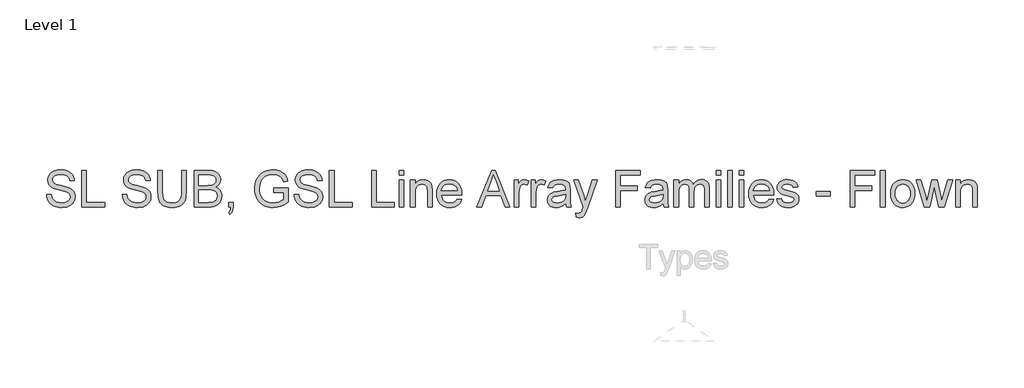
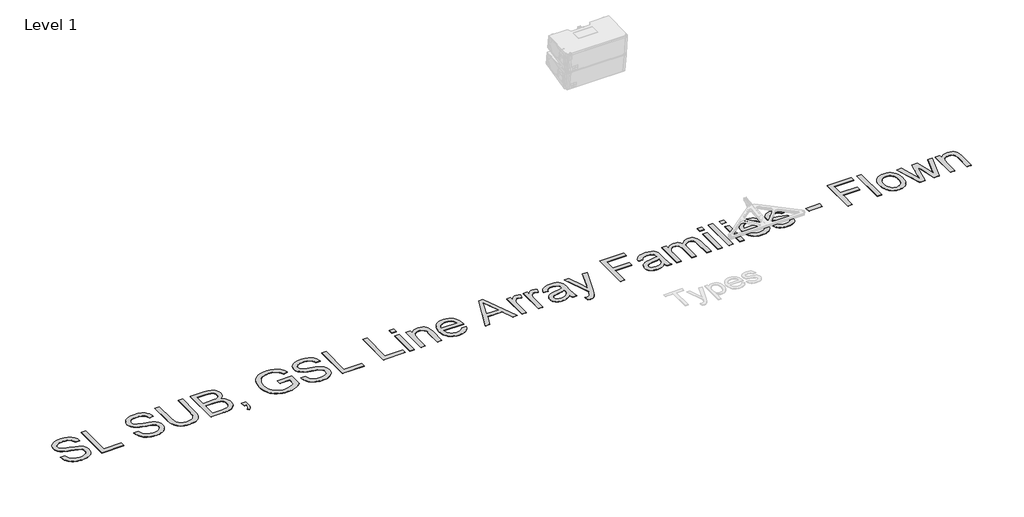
# One storey, part 25 of 52: 1 proxy.
"""IFC4 building model written with IfcOpenShell, lengths in millimetres."""

from ifc_helpers import new_model, si_unit, origin, origin_with_axes, place, context, project, spatial, polyline, outline, extrude, element, save

model = new_model("IFC4")

# Units and contexts
model_context = context("Model", 3, world=origin())
ifc_project = project(units=[si_unit("LENGTHUNIT", "METRE", prefix="MILLI")], contexts=[model_context])

# Site, building, storey
site = spatial("IfcSite", under=ifc_project)
building = spatial("IfcBuilding", under=site)
storey = spatial("IfcBuildingStorey", under=building, Name="Level 1", Elevation=0.0)

# Proxy
placement = place(None, origin())
element("IfcBuildingElementProxy", 1, Name="600mm Arial", ObjectType="600mm Arial", at=placement, inside=storey, context=model_context, shape_type="SweptSolid", body=[
    extrude(outline(polyline([(-21062.646299, -12364.4925934), (-20988.8001451, -12364.4925934), (-20980.3265874, -12405.4721607), (-20965.0020682, -12438.4108626), (-20941.0958182, -12464.5526895), (-20906.8770682, -12485.1416318), (-20865.0501451, -12498.5010068), (-20818.3193759, -12502.9541318), (-20777.177549, -12499.5827376), (-20741.1559143, -12489.4685549), (-20711.9672124, -12473.4589395), (-20691.3241836, -12452.4012472), (-20679.0465393, -12428.2245645), (-20674.9539913, -12402.857978), (-20678.0188951, -12378.1404299), (-20687.2136067, -12356.7762472), (-20705.8914913, -12338.5490837), (-20737.4059143, -12323.2425934), (-20844.9299528, -12295.045478), (-20915.5128855, -12276.3856222), (-20960.6751451, -12258.6272087), (-20997.4359624, -12233.7834587), (-21023.4876451, -12203.6752857), (-21039.0104817, -12168.951728), (-21044.1847605, -12130.2618241), (-21042.5847004, -12108.271139), (-21037.7845201, -12087.0106222), (-21029.7842196, -12066.4802736), (-21018.583799, -12046.6800934), (-21004.30946, -12028.4168722), (-20987.0874047, -12012.497401), (-20966.9176331, -11998.9216799), (-20943.8001451, -11987.6897087), (-20891.8410105, -11972.5995645), (-20834.3289913, -11967.5695164), (-20772.021299, -11972.8339395), (-20717.5020682, -11988.6272087), (-20693.6499047, -12000.3910309), (-20672.7184143, -12014.6248049), (-20654.707597, -12031.3285309), (-20639.6174528, -12050.5022087), (-20627.5651692, -12071.5869443), (-20618.6679336, -12094.0238434), (-20612.9257461, -12117.8129059), (-20610.3386067, -12142.9541318), (-20684.1847605, -12142.9541318), (-20689.1246643, -12119.3904299), (-20697.7424528, -12098.8916318), (-20710.0381259, -12081.4577376), (-20726.0116836, -12067.0887472), (-20745.9606018, -12055.856776), (-20770.1823567, -12047.8339395), (-20798.676948, -12043.0202376), (-20831.4443759, -12041.4156703), (-20865.2574768, -12043.0022087), (-20894.1487028, -12047.7618241), (-20918.1180538, -12055.6945164), (-20937.1655297, -12066.8002857), (-20951.6787509, -12080.1506462), (-20962.0453374, -12094.8171126), (-20968.2652893, -12110.7996847), (-20970.3386067, -12128.0983626), (-20964.4612028, -12156.4757664), (-20946.8289913, -12179.3002857), (-20930.6390874, -12189.450526), (-20905.146299, -12199.7089395), (-20826.2520682, -12220.5502857), (-20744.833799, -12240.3459587), (-20695.5789913, -12257.6175934), (-20653.4816355, -12284.4084587), (-20637.2060946, -12300.1566559), (-20624.1126451, -12317.4733626), (-20614.0480417, -12336.2684347), (-20606.8590393, -12356.451728), (-20601.1078374, -12400.982978), (-20602.7619841, -12424.0824371), (-20607.724424, -12446.5058145), (-20615.9951571, -12468.2531102), (-20627.5741836, -12489.3243241), (-20642.2586788, -12508.903651), (-20659.8458182, -12526.1752857), (-20680.3356018, -12541.139228), (-20703.7280297, -12553.795478), (-20729.3425129, -12563.8600813), (-20756.4984624, -12571.0490837), (-20815.4347605, -12576.8002857), (-20853.2097004, -12575.2498049), (-20887.7845201, -12570.5983626), (-20919.1592196, -12562.8459587), (-20947.333799, -12551.9925934), (-20972.4795321, -12538.0202376), (-20994.7676932, -12520.9108626), (-21014.1982821, -12500.6644684), (-21030.771299, -12477.2810549), (-21044.1216595, -12451.5178337), (-21053.8842797, -12424.1320164), (-21060.0591595, -12395.123603), (-21062.646299, -12364.4925934)])), origin_with_axes(), (0.0, 0.0, 1.0), 5.0),
    extrude(outline(polyline([(-20490.3386067, -12567.5695164), (-20490.3386067, -11976.8002857), (-20416.4924528, -11976.8002857), (-20416.4924528, -12493.7233626), (-20121.1078374, -12493.7233626), (-20121.1078374, -12567.5695164), (-20490.3386067, -12567.5695164)])), origin_with_axes(), (0.0, 0.0, 1.0), 5.0),
    extrude(outline(polyline([(-19834.9539913, -12364.4925934), (-19761.1078374, -12364.4925934), (-19752.6342797, -12405.4721607), (-19737.3097605, -12438.4108626), (-19713.4035105, -12464.5526895), (-19679.1847605, -12485.1416318), (-19637.3578374, -12498.5010068), (-19590.6270682, -12502.9541318), (-19549.4852413, -12499.5827376), (-19513.4636067, -12489.4685549), (-19484.2749047, -12473.4589395), (-19463.6318759, -12452.4012472), (-19451.3542317, -12428.2245645), (-19447.2616836, -12402.857978), (-19450.3265874, -12378.1404299), (-19459.521299, -12356.7762472), (-19478.1991836, -12338.5490837), (-19509.7136067, -12323.2425934), (-19617.2376451, -12295.045478), (-19687.8205778, -12276.3856222), (-19732.9828374, -12258.6272087), (-19769.7436547, -12233.7834587), (-19795.7953374, -12203.6752857), (-19811.318174, -12168.951728), (-19816.4924528, -12130.2618241), (-19814.8923927, -12108.271139), (-19810.0922124, -12087.0106222), (-19802.0919119, -12066.4802736), (-19790.8914913, -12046.6800934), (-19776.6171523, -12028.4168722), (-19759.395097, -12012.497401), (-19739.2253254, -11998.9216799), (-19716.1078374, -11987.6897087), (-19664.1487028, -11972.5995645), (-19606.6366836, -11967.5695164), (-19544.3289913, -11972.8339395), (-19489.8097605, -11988.6272087), (-19465.957597, -12000.3910309), (-19445.0261067, -12014.6248049), (-19427.0152893, -12031.3285309), (-19411.9251451, -12050.5022087), (-19399.8728615, -12071.5869443), (-19390.9756259, -12094.0238434), (-19385.2334384, -12117.8129059), (-19382.646299, -12142.9541318), (-19456.4924528, -12142.9541318), (-19461.4323567, -12119.3904299), (-19470.0501451, -12098.8916318), (-19482.3458182, -12081.4577376), (-19498.3193759, -12067.0887472), (-19518.2682942, -12055.856776), (-19542.490049, -12047.8339395), (-19570.9846403, -12043.0202376), (-19603.7520682, -12041.4156703), (-19637.5651692, -12043.0022087), (-19666.4563951, -12047.7618241), (-19690.4257461, -12055.6945164), (-19709.473222, -12066.8002857), (-19723.9864432, -12080.1506462), (-19734.3530297, -12094.8171126), (-19740.5729817, -12110.7996847), (-19742.646299, -12128.0983626), (-19736.7688951, -12156.4757664), (-19719.1366836, -12179.3002857), (-19702.9467797, -12189.450526), (-19677.4539913, -12199.7089395), (-19598.5597605, -12220.5502857), (-19517.1414913, -12240.3459587), (-19467.8866836, -12257.6175934), (-19425.7893278, -12284.4084587), (-19409.5137869, -12300.1566559), (-19396.4203374, -12317.4733626), (-19386.3557341, -12336.2684347), (-19379.1667317, -12356.451728), (-19373.4155297, -12400.982978), (-19375.0696764, -12424.0824371), (-19380.0321163, -12446.5058145), (-19388.3028494, -12468.2531102), (-19399.8818759, -12489.3243241), (-19414.5663711, -12508.903651), (-19432.1535105, -12526.1752857), (-19452.6432942, -12541.139228), (-19476.035722, -12553.795478), (-19501.6502052, -12563.8600813), (-19528.8061547, -12571.0490837), (-19587.7424528, -12576.8002857), (-19625.5173927, -12575.2498049), (-19660.0922124, -12570.5983626), (-19691.4669119, -12562.8459587), (-19719.6414913, -12551.9925934), (-19744.7872244, -12538.0202376), (-19767.0753855, -12520.9108626), (-19786.5059744, -12500.6644684), (-19803.0789913, -12477.2810549), (-19816.4293518, -12451.5178337), (-19826.191972, -12424.1320164), (-19832.3668518, -12395.123603), (-19834.9539913, -12364.4925934)])), origin_with_axes(), (0.0, 0.0, 1.0), 5.0),
    extrude(outline(polyline([(-18874.9539913, -11976.8002857), (-18801.1078374, -11976.8002857), (-18801.1078374, -12317.6175934), (-18806.1198567, -12397.4312953), (-18812.3848807, -12430.4556342), (-18821.1559143, -12458.8916318), (-18833.1901692, -12483.8165116), (-18849.2448567, -12506.3074972), (-18869.3199768, -12526.3645885), (-18893.4155297, -12543.9877857), (-18921.5585586, -12558.3432544), (-18953.7761067, -12568.5971607), (-18990.068174, -12574.7495044), (-19030.4347605, -12576.8002857), (-19069.8052533, -12575.0154299), (-19105.4167317, -12569.6608626), (-19137.2691956, -12560.7365837), (-19165.3626451, -12548.2425934), (-19189.7015874, -12532.3636871), (-19210.2905297, -12513.2846607), (-19227.129472, -12491.005514), (-19240.2184143, -12465.5262472), (-19250.0306139, -12435.9724611), (-19257.0393278, -12401.4697568), (-19262.646299, -12317.6175934), (-19262.646299, -11976.8002857), (-19188.8001451, -11976.8002857), (-19188.8001451, -12315.0214395), (-19185.1583182, -12381.3856222), (-19174.2328374, -12427.5935549), (-19165.6420922, -12444.6263073), (-19154.4371643, -12459.5947568), (-19140.6180538, -12472.4989034), (-19124.1847605, -12483.3387472), (-19084.7376451, -12498.0502857), (-19037.3578374, -12502.9541318), (-18996.6577172, -12500.529252), (-18962.2496643, -12493.2546126), (-18934.1336788, -12481.1302135), (-18912.3097605, -12464.1560549), (-18895.9666115, -12440.2858626), (-18884.2929336, -12407.4733626), (-18877.2887268, -12365.7185549), (-18874.9539913, -12315.0214395), (-18874.9539913, -11976.8002857)])), origin_with_axes(), (0.0, 0.0, 1.0), 5.0),
    extrude(outline(polyline([(-18671.8770682, -12567.5695164), (-18671.8770682, -11976.8002857), (-18446.4443759, -11976.8002857), (-18384.443174, -11981.1452376), (-18336.035722, -11994.1800934), (-18298.9323567, -12016.2293722), (-18283.7610826, -12030.756115), (-18270.8434143, -12047.6175934), (-18253.1571163, -12084.5406703), (-18247.2616836, -12123.1945164), (-18252.2196163, -12158.7654299), (-18267.0934143, -12192.2089395), (-18291.9912509, -12221.4697568), (-18327.021299, -12244.4925934), (-18304.7331379, -12253.9937953), (-18285.176347, -12266.3435549), (-18268.3509264, -12281.5418722), (-18254.2568759, -12299.5887472), (-18243.1195562, -12319.9343001), (-18235.1643278, -12342.028651), (-18230.3911908, -12365.8718001), (-18228.8001451, -12391.4637472), (-18233.145097, -12432.6596607), (-18246.1799528, -12470.8627857), (-18265.6330778, -12503.3507664), (-18289.2328374, -12527.4012472), (-18318.1330778, -12544.8171126), (-18353.4876451, -12557.4012472), (-18396.4503855, -12565.0274491), (-18448.1751451, -12567.5695164), (-18671.8770682, -12567.5695164)]), holes=[polyline([(-18598.0309143, -12493.7233626), (-18446.5886067, -12493.7233626), (-18391.7809143, -12490.8387472), (-18366.3422124, -12484.4385068), (-18345.410722, -12474.7570164), (-18328.3914913, -12460.8928337), (-18314.6895682, -12441.9445164), (-18305.6571163, -12418.7594203), (-18302.646299, -12392.184901), (-18306.1799528, -12361.3195164), (-18316.7809143, -12334.7810549), (-18335.2965393, -12314.029853), (-18362.5741836, -12300.5262472), (-18401.2100009, -12293.1163914), (-18453.8001451, -12290.6464395), (-18598.0309143, -12290.6464395), (-18598.0309143, -12493.7233626)]), polyline([(-18598.0309143, -12216.8002857), (-18463.1751451, -12216.8002857), (-18416.0116836, -12215.2137472), (-18384.4251451, -12210.4541318), (-18356.8590393, -12199.5106222), (-18337.0453374, -12183.122401), (-18325.0922124, -12161.5418722), (-18321.1078374, -12135.0214395), (-18324.8217797, -12109.2762472), (-18335.9636067, -12086.8483626), (-18354.0285105, -12069.342353), (-18378.5116836, -12058.3627857), (-18416.083799, -12052.575526), (-18473.4155297, -12050.6464395), (-18598.0309143, -12050.6464395), (-18598.0309143, -12216.8002857)])]), origin_with_axes(), (0.0, 0.0, 1.0), 5.0),
    extrude(outline(polyline([(-18118.0309143, -12567.5695164), (-18118.0309143, -12493.7233626), (-18044.1847605, -12493.7233626), (-18044.1847605, -12567.5695164), (-18047.5020682, -12609.811103), (-18057.4539913, -12643.0743241), (-18074.6174528, -12668.5851414), (-18099.5693759, -12687.5695164), (-18118.0309143, -12659.8772087), (-18102.021299, -12646.4998049), (-18090.9155297, -12628.0022087), (-18084.1727413, -12602.3651895), (-18081.2520682, -12567.5695164), (-18118.0309143, -12567.5695164)])), origin_with_axes(), (0.0, 0.0, 1.0), 5.0),
    extrude(outline(polyline([(-17388.8001451, -12336.8002857), (-17388.8001451, -12262.9541318), (-17148.8001451, -12262.9541318), (-17148.8001451, -12483.7714395), (-17207.1234624, -12524.3363434), (-17267.285722, -12553.434901), (-17329.1426932, -12570.9589395), (-17392.5501451, -12576.8002857), (-17434.9675129, -12574.4790717), (-17475.3926932, -12567.5154299), (-17513.825686, -12555.9093602), (-17550.2664913, -12539.6608626), (-17583.5387268, -12519.0133265), (-17612.4660105, -12494.2101414), (-17637.0483422, -12465.2513073), (-17657.285722, -12432.1368241), (-17673.0925129, -12395.9258866), (-17684.3830778, -12357.6776895), (-17691.1574167, -12317.3922328), (-17693.4155297, -12275.0695164), (-17691.1664312, -12232.7422929), (-17684.4191355, -12191.8663914), (-17673.1736427, -12152.4418121), (-17657.4299528, -12114.4685549), (-17637.4675129, -12079.6142881), (-17613.5657701, -12049.5466799), (-17585.7247244, -12024.2657304), (-17553.9443759, -12003.7714395), (-17518.9143278, -11987.9330982), (-17481.3241836, -11976.6199972), (-17441.1739432, -11969.8321366), (-17398.4636067, -11967.5695164), (-17337.6342797, -11972.8159107), (-17282.9347605, -11988.5550934), (-17236.8710586, -12013.6512472), (-17218.0173927, -12029.2822568), (-17201.9491836, -12046.9685549), (-17176.113847, -12090.1115837), (-17157.3097605, -12144.684901), (-17225.3866836, -12163.8675934), (-17240.5850009, -12124.9433145), (-17259.0645682, -12095.5743241), (-17283.5116836, -12073.434901), (-17316.6126451, -12056.1993241), (-17356.0777893, -12045.1115837), (-17399.6174528, -12041.4156703), (-17450.5850009, -12045.4000453), (-17494.160722, -12057.3531703), (-17530.1823567, -12075.778651), (-17558.4876451, -12099.1800934), (-17580.2124047, -12126.3495645), (-17596.4924528, -12156.0791318), (-17613.8001451, -12211.8243241), (-17619.5693759, -12272.0406703), (-17617.8340994, -12308.9141679), (-17612.6282701, -12342.6596607), (-17603.9518879, -12373.2771486), (-17591.8049528, -12400.7666318), (-17576.3452172, -12425.0244443), (-17557.7304336, -12445.9469203), (-17535.9606018, -12463.5340597), (-17511.035722, -12477.7858626), (-17484.1231619, -12488.7969804), (-17456.3902893, -12496.6620645), (-17427.8371042, -12501.381115), (-17398.4636067, -12502.9541318), (-17347.3157701, -12498.2125453), (-17297.4299528, -12483.9877857), (-17254.1066355, -12464.3904299), (-17222.646299, -12443.5310549), (-17222.646299, -12336.8002857), (-17388.8001451, -12336.8002857)])), origin_with_axes(), (0.0, 0.0, 1.0), 5.0),
    extrude(outline(polyline([(-17056.4924528, -12364.4925934), (-16982.646299, -12364.4925934), (-16974.1727413, -12405.4721607), (-16958.848222, -12438.4108626), (-16934.941972, -12464.5526895), (-16900.723222, -12485.1416318), (-16858.896299, -12498.5010068), (-16812.1655297, -12502.9541318), (-16771.0237028, -12499.5827376), (-16735.0020682, -12489.4685549), (-16705.8133663, -12473.4589395), (-16685.1703374, -12452.4012472), (-16672.8926932, -12428.2245645), (-16668.8001451, -12402.857978), (-16671.865049, -12378.1404299), (-16681.0597605, -12356.7762472), (-16699.7376451, -12338.5490837), (-16731.2520682, -12323.2425934), (-16838.7761067, -12295.045478), (-16909.3590393, -12276.3856222), (-16954.521299, -12258.6272087), (-16991.2821163, -12233.7834587), (-17017.333799, -12203.6752857), (-17032.8566355, -12168.951728), (-17038.0309143, -12130.2618241), (-17036.4308542, -12108.271139), (-17031.630674, -12087.0106222), (-17023.6303735, -12066.4802736), (-17012.4299528, -12046.6800934), (-16998.1556139, -12028.4168722), (-16980.9335586, -12012.497401), (-16960.7637869, -11998.9216799), (-16937.646299, -11987.6897087), (-16885.6871643, -11972.5995645), (-16828.1751451, -11967.5695164), (-16765.8674528, -11972.8339395), (-16711.348222, -11988.6272087), (-16687.4960586, -12000.3910309), (-16666.5645682, -12014.6248049), (-16648.5537509, -12031.3285309), (-16633.4636067, -12050.5022087), (-16621.411323, -12071.5869443), (-16612.5140874, -12094.0238434), (-16606.7718999, -12117.8129059), (-16604.1847605, -12142.9541318), (-16678.0309143, -12142.9541318), (-16682.9708182, -12119.3904299), (-16691.5886067, -12098.8916318), (-16703.8842797, -12081.4577376), (-16719.8578374, -12067.0887472), (-16739.8067557, -12055.856776), (-16764.0285105, -12047.8339395), (-16792.5231018, -12043.0202376), (-16825.2905297, -12041.4156703), (-16859.1036307, -12043.0022087), (-16887.9948567, -12047.7618241), (-16911.9642076, -12055.6945164), (-16931.0116836, -12066.8002857), (-16945.5249047, -12080.1506462), (-16955.8914913, -12094.8171126), (-16962.1114432, -12110.7996847), (-16964.1847605, -12128.0983626), (-16958.3073567, -12156.4757664), (-16940.6751451, -12179.3002857), (-16924.4852413, -12189.450526), (-16898.9924528, -12199.7089395), (-16820.098222, -12220.5502857), (-16738.6799528, -12240.3459587), (-16689.4251451, -12257.6175934), (-16647.3277893, -12284.4084587), (-16631.0522485, -12300.1566559), (-16617.958799, -12317.4733626), (-16607.8941956, -12336.2684347), (-16600.7051932, -12356.451728), (-16594.9539913, -12400.982978), (-16596.6081379, -12424.0824371), (-16601.5705778, -12446.5058145), (-16609.841311, -12468.2531102), (-16621.4203374, -12489.3243241), (-16636.1048326, -12508.903651), (-16653.691972, -12526.1752857), (-16674.1817557, -12541.139228), (-16697.5741836, -12553.795478), (-16723.1886667, -12563.8600813), (-16750.3446163, -12571.0490837), (-16809.2809143, -12576.8002857), (-16847.0558542, -12575.2498049), (-16881.630674, -12570.5983626), (-16913.0053735, -12562.8459587), (-16941.1799528, -12551.9925934), (-16966.325686, -12538.0202376), (-16988.613847, -12520.9108626), (-17008.044436, -12500.6644684), (-17024.6174528, -12477.2810549), (-17037.9678134, -12451.5178337), (-17047.7304336, -12424.1320164), (-17053.9053134, -12395.123603), (-17056.4924528, -12364.4925934)])), origin_with_axes(), (0.0, 0.0, 1.0), 5.0),
    extrude(outline(polyline([(-16484.1847605, -12567.5695164), (-16484.1847605, -11976.8002857), (-16410.3386067, -11976.8002857), (-16410.3386067, -12493.7233626), (-16114.9539913, -12493.7233626), (-16114.9539913, -12567.5695164), (-16484.1847605, -12567.5695164)])), origin_with_axes(), (0.0, 0.0, 1.0), 5.0),
    extrude(outline(polyline([(-15801.1078374, -12567.5695164), (-15801.1078374, -11976.8002857), (-15727.2616836, -11976.8002857), (-15727.2616836, -12493.7233626), (-15431.8770682, -12493.7233626), (-15431.8770682, -12567.5695164), (-15801.1078374, -12567.5695164)])), origin_with_axes(), (0.0, 0.0, 1.0), 5.0),
    extrude(outline(polyline([(-15358.0309143, -12567.5695164), (-15358.0309143, -12133.7233626), (-15284.1847605, -12133.7233626), (-15284.1847605, -12567.5695164), (-15358.0309143, -12567.5695164)])), origin_with_axes(), (0.0, 0.0, 1.0), 5.0),
    extrude(outline(polyline([(-15358.0309143, -12050.6464395), (-15358.0309143, -11976.8002857), (-15284.1847605, -11976.8002857), (-15284.1847605, -12050.6464395), (-15358.0309143, -12050.6464395)])), origin_with_axes(), (0.0, 0.0, 1.0), 5.0),
    extrude(outline(polyline([(-15173.4155297, -12567.5695164), (-15173.4155297, -12133.7233626), (-15099.5693759, -12133.7233626), (-15099.5693759, -12194.3002857), (-15073.9143278, -12163.7594203), (-15043.1030297, -12141.9445164), (-15007.1354817, -12128.8555741), (-14966.0116836, -12124.4925934), (-14929.6114432, -12128.0082184), (-14896.2761067, -12138.5550934), (-14868.4756259, -12154.8171126), (-14848.6799528, -12175.4781703), (-14835.2484624, -12200.4841799), (-14826.5405297, -12229.7810549), (-14822.646299, -12301.1752857), (-14822.646299, -12567.5695164), (-14896.4924528, -12567.5695164), (-14896.4924528, -12311.1272087), (-14898.6198567, -12272.9421126), (-14905.0020682, -12245.7906703), (-14916.7749047, -12226.3375453), (-14935.0741836, -12211.247401), (-14958.5297124, -12201.5659107), (-14985.771299, -12198.3387472), (-15008.1946764, -12200.1506462), (-15029.0225009, -12205.5863434), (-15048.2547725, -12214.6458385), (-15065.8914913, -12227.3291318), (-15080.6255658, -12245.0785309), (-15091.1499047, -12269.3363434), (-15097.4645081, -12300.1025693), (-15099.5693759, -12337.3772087), (-15099.5693759, -12567.5695164), (-15173.4155297, -12567.5695164)])), origin_with_axes(), (0.0, 0.0, 1.0), 5.0),
    extrude(outline(polyline([(-14417.3578374, -12438.3387472), (-14344.9539913, -12447.5695164), (-14356.0552533, -12476.5689155), (-14371.0417317, -12502.1248049), (-14389.9134264, -12524.2371847), (-14412.6703374, -12542.9060549), (-14439.0780898, -12557.7347809), (-14468.9023086, -12568.326728), (-14502.1429937, -12574.6818962), (-14538.8001451, -12576.8002857), (-14584.6204576, -12573.1449371), (-14625.4467797, -12562.1788914), (-14661.2791115, -12543.9021486), (-14692.1174528, -12518.3147087), (-14716.9161307, -12486.1287111), (-14734.629472, -12448.0562953), (-14745.2574768, -12404.0974611), (-14748.8001451, -12354.2522087), (-14745.2214192, -12302.716752), (-14734.4852413, -12257.2930741), (-14716.5916115, -12217.9811751), (-14691.5405297, -12184.7810549), (-14660.7833182, -12158.404853), (-14625.771299, -12139.5647087), (-14586.504472, -12128.2606222), (-14542.9828374, -12124.4925934), (-14500.8629456, -12128.2516078), (-14462.7725009, -12139.528651), (-14428.7115033, -12158.3237232), (-14398.6799528, -12184.6368241), (-14374.1652292, -12217.7648289), (-14356.6547124, -12257.0046126), (-14346.1484023, -12302.3561751), (-14342.646299, -12353.8195164), (-14343.0789913, -12373.7233626), (-14674.9539913, -12373.7233626), (-14670.6766475, -12403.1915116), (-14662.1715393, -12428.9998049), (-14649.4386667, -12451.1482424), (-14632.4780297, -12469.6368241), (-14612.2271283, -12484.2131462), (-14589.6234624, -12494.6248049), (-14564.6670321, -12500.8718001), (-14537.3578374, -12502.9541318), (-14498.0549528, -12499.0959587), (-14464.9539913, -12487.5214395), (-14438.0549528, -12467.5094203), (-14417.3578374, -12438.3387472)]), holes=[polyline([(-14674.9539913, -12299.8772087), (-14416.4924528, -12299.8772087), (-14426.4804336, -12260.8627857), (-14435.0711788, -12245.5202376), (-14446.0597605, -12232.9541318), (-14466.1979817, -12217.809901), (-14489.1126451, -12206.9925934), (-14514.8037509, -12200.5022087), (-14543.271299, -12198.3387472), (-14569.2373446, -12200.0650092), (-14593.0489432, -12205.2437953), (-14614.7060946, -12213.8751054), (-14634.208799, -12225.9589395), (-14650.5744841, -12240.9364034), (-14662.8205778, -12258.248603), (-14670.9470802, -12277.8955381), (-14674.9539913, -12299.8772087)])]), origin_with_axes(), (0.0, 0.0, 1.0), 5.0),
    extrude(outline(polyline([(-14097.598222, -12567.5695164), (-13861.7809143, -11976.8002857), (-13798.896299, -11976.8002857), (-13563.0789913, -12567.5695164), (-13641.1078374, -12567.5695164), (-13708.7520682, -12382.9541318), (-13952.0693759, -12382.9541318), (-14019.5693759, -12567.5695164), (-14097.598222, -12567.5695164)]), holes=[polyline([(-13924.9539913, -12309.107978), (-13735.723222, -12309.107978), (-13788.9443759, -12163.8675934), (-13830.3386067, -12050.6464395), (-13867.1174528, -12151.1752857), (-13924.9539913, -12309.107978)])]), origin_with_axes(), (0.0, 0.0, 1.0), 5.0),
    extrude(outline(polyline([(-13493.4155297, -12567.5695164), (-13493.4155297, -12133.7233626), (-13428.8001451, -12133.7233626), (-13428.8001451, -12197.9060549), (-13404.9299528, -12160.6945164), (-13382.9347605, -12138.7714395), (-13360.8674528, -12128.0623049), (-13336.7809143, -12124.4925934), (-13300.0020682, -12130.1897087), (-13262.646299, -12147.2810549), (-13287.3097605, -12213.482978), (-13313.271299, -12202.1248049), (-13339.2328374, -12198.3387472), (-13361.2821163, -12201.9805741), (-13380.9876451, -12212.9060549), (-13396.9071163, -12230.2858626), (-13407.598222, -12253.2906703), (-13416.5765874, -12294.5406703), (-13419.5693759, -12339.5406703), (-13419.5693759, -12567.5695164), (-13493.4155297, -12567.5695164)])), origin_with_axes(), (0.0, 0.0, 1.0), 5.0),
    extrude(outline(polyline([(-13216.4924528, -12567.5695164), (-13216.4924528, -12133.7233626), (-13151.8770682, -12133.7233626), (-13151.8770682, -12197.9060549), (-13128.0068759, -12160.6945164), (-13106.0116836, -12138.7714395), (-13083.9443759, -12128.0623049), (-13059.8578374, -12124.4925934), (-13023.0789913, -12130.1897087), (-12985.723222, -12147.2810549), (-13010.3866836, -12213.482978), (-13036.348222, -12202.1248049), (-13062.3097605, -12198.3387472), (-13084.3590393, -12201.9805741), (-13104.0645682, -12212.9060549), (-13119.9840393, -12230.2858626), (-13130.6751451, -12253.2906703), (-13139.6535105, -12294.5406703), (-13142.646299, -12339.5406703), (-13142.646299, -12567.5695164), (-13216.4924528, -12567.5695164)])), origin_with_axes(), (0.0, 0.0, 1.0), 5.0),
    extrude(outline(polyline([(-12662.646299, -12512.184901), (-12697.9287509, -12542.4373049), (-12734.2568759, -12562.232978), (-12772.4600009, -12573.1584587), (-12813.3674528, -12576.8002857), (-12846.247561, -12574.6097809), (-12875.0801932, -12568.0382664), (-12899.8653494, -12557.0857424), (-12920.6030297, -12541.7522087), (-12936.9777292, -12523.0112232), (-12948.6739432, -12501.8363434), (-12955.6916716, -12478.2275693), (-12958.0309143, -12452.184901), (-12954.4972605, -12421.5719203), (-12943.896299, -12393.7714395), (-12927.5441355, -12369.9733626), (-12906.7568759, -12351.3675934), (-12882.3277893, -12337.3050934), (-12855.0501451, -12327.1368241), (-12791.1559143, -12316.0310549), (-12715.6511067, -12304.3483626), (-12663.0789913, -12290.6464395), (-12662.646299, -12274.2041318), (-12667.7304336, -12241.247401), (-12674.0856018, -12229.0418722), (-12682.9828374, -12219.684901), (-12698.3614432, -12210.3459587), (-12717.0934143, -12203.6752857), (-12764.6174528, -12198.3387472), (-12808.6078374, -12201.8904299), (-12839.3289913, -12212.545478), (-12860.2785105, -12232.2510068), (-12874.9539913, -12262.9541318), (-12948.8001451, -12253.7233626), (-12935.9816355, -12213.3387472), (-12916.8530297, -12181.607978), (-12889.629472, -12157.341151), (-12852.5261067, -12139.3483626), (-12807.1475009, -12128.2065357), (-12755.098222, -12124.4925934), (-12705.176347, -12127.7738434), (-12665.6030297, -12137.6175934), (-12635.7652893, -12152.419276), (-12615.0501451, -12170.5743241), (-12601.3121643, -12193.0202376), (-12592.4059143, -12220.6945164), (-12588.8001451, -12285.309901), (-12588.8001451, -12377.184901), (-12585.0501451, -12505.4781703), (-12579.4972605, -12537.1909107), (-12570.3386067, -12567.5695164), (-12644.1847605, -12567.5695164), (-12656.0116836, -12541.8964395), (-12662.646299, -12512.184901)]), holes=[polyline([(-12662.646299, -12364.4925934), (-12712.2616836, -12376.7882664), (-12781.7809143, -12387.1368241), (-12845.3145682, -12399.107978), (-12861.8470201, -12407.2930741), (-12874.0886067, -12418.5791318), (-12881.660722, -12432.1007664), (-12884.1847605, -12446.9925934), (-12878.6859624, -12468.951728), (-12862.1895682, -12486.9445164), (-12835.0561547, -12498.951728), (-12797.646299, -12502.9541318), (-12757.9828374, -12498.5370645), (-12722.9347605, -12485.2858626), (-12694.521299, -12465.7606222), (-12674.7616836, -12442.5214395), (-12665.9996643, -12418.5791318), (-12663.0789913, -12385.4060549), (-12662.646299, -12364.4925934)])]), origin_with_axes(), (0.0, 0.0, 1.0), 5.0),
    extrude(outline(polyline([(-12487.2616836, -12733.7233626), (-12496.4924528, -12662.6175934), (-12458.9924528, -12669.107978), (-12439.2688951, -12667.0707184), (-12423.9443759, -12660.9589395), (-12412.0092797, -12651.2053337), (-12402.4539913, -12638.2425934), (-12382.2616836, -12583.8675934), (-12376.4924528, -12565.982978), (-12533.4155297, -12133.7233626), (-12455.5309143, -12133.7233626), (-12372.3097605, -12374.5887472), (-12343.3193759, -12470.934901), (-12314.3289913, -12385.8387472), (-12228.8001451, -12133.7233626), (-12151.4924528, -12133.7233626), (-12302.5020682, -12577.9541318), (-12341.7328374, -12674.3002857), (-12361.816972, -12705.0574972), (-12384.5693759, -12726.3675934), (-12410.9996643, -12738.8074972), (-12442.1174528, -12742.9541318), (-12463.4996643, -12740.6464395), (-12487.2616836, -12733.7233626)])), origin_with_axes(), (0.0, 0.0, 1.0), 5.0),
    extrude(outline(polyline([(-11850.3386067, -12567.5695164), (-11850.3386067, -11976.8002857), (-11453.4155297, -11976.8002857), (-11453.4155297, -12050.6464395), (-11776.4924528, -12050.6464395), (-11776.4924528, -12226.0310549), (-11499.5693759, -12226.0310549), (-11499.5693759, -12299.8772087), (-11776.4924528, -12299.8772087), (-11776.4924528, -12567.5695164), (-11850.3386067, -12567.5695164)])), origin_with_axes(), (0.0, 0.0, 1.0), 5.0),
    extrude(outline(polyline([(-11084.1847605, -12512.184901), (-11119.4672124, -12542.4373049), (-11155.7953374, -12562.232978), (-11193.9984624, -12573.1584587), (-11234.9059143, -12576.8002857), (-11267.7860225, -12574.6097809), (-11296.6186547, -12568.0382664), (-11321.403811, -12557.0857424), (-11342.1414913, -12541.7522087), (-11358.5161908, -12523.0112232), (-11370.2124047, -12501.8363434), (-11377.2301331, -12478.2275693), (-11379.5693759, -12452.184901), (-11376.035722, -12421.5719203), (-11365.4347605, -12393.7714395), (-11349.082597, -12369.9733626), (-11328.2953374, -12351.3675934), (-11303.8662509, -12337.3050934), (-11276.5886067, -12327.1368241), (-11212.6943759, -12316.0310549), (-11137.1895682, -12304.3483626), (-11084.6174528, -12290.6464395), (-11084.1847605, -12274.2041318), (-11089.2688951, -12241.247401), (-11095.6240634, -12229.0418722), (-11104.521299, -12219.684901), (-11119.8999047, -12210.3459587), (-11138.6318759, -12203.6752857), (-11186.1559143, -12198.3387472), (-11230.146299, -12201.8904299), (-11260.8674528, -12212.545478), (-11281.816972, -12232.2510068), (-11296.4924528, -12262.9541318), (-11370.3386067, -12253.7233626), (-11357.520097, -12213.3387472), (-11338.3914913, -12181.607978), (-11311.1679336, -12157.341151), (-11274.0645682, -12139.3483626), (-11228.6859624, -12128.2065357), (-11176.6366836, -12124.4925934), (-11126.7148086, -12127.7738434), (-11087.1414913, -12137.6175934), (-11057.3037509, -12152.419276), (-11036.5886067, -12170.5743241), (-11022.8506259, -12193.0202376), (-11013.9443759, -12220.6945164), (-11010.3386067, -12285.309901), (-11010.3386067, -12377.184901), (-11006.5886067, -12505.4781703), (-11001.035722, -12537.1909107), (-10991.8770682, -12567.5695164), (-11065.723222, -12567.5695164), (-11077.5501451, -12541.8964395), (-11084.1847605, -12512.184901)]), holes=[polyline([(-11084.1847605, -12364.4925934), (-11133.8001451, -12376.7882664), (-11203.3193759, -12387.1368241), (-11266.8530297, -12399.107978), (-11283.3854817, -12407.2930741), (-11295.6270682, -12418.5791318), (-11303.1991836, -12432.1007664), (-11305.723222, -12446.9925934), (-11300.224424, -12468.951728), (-11283.7280297, -12486.9445164), (-11256.5946163, -12498.951728), (-11219.1847605, -12502.9541318), (-11179.521299, -12498.5370645), (-11144.473222, -12485.2858626), (-11116.0597605, -12465.7606222), (-11096.3001451, -12442.5214395), (-11087.5381259, -12418.5791318), (-11084.6174528, -12385.4060549), (-11084.1847605, -12364.4925934)])]), origin_with_axes(), (0.0, 0.0, 1.0), 5.0),
    extrude(outline(polyline([(-10908.8001451, -12567.5695164), (-10908.8001451, -12133.7233626), (-10834.9539913, -12133.7233626), (-10834.9539913, -12205.1175934), (-10812.7424528, -12172.3231222), (-10784.1847605, -12146.6320164), (-10750.254472, -12130.0274491), (-10711.9251451, -12124.4925934), (-10670.8554336, -12130.1356222), (-10653.3764672, -12137.1894083), (-10637.9347605, -12147.0647087), (-10613.3434143, -12174.1620645), (-10597.2616836, -12210.309901), (-10570.3446163, -12172.7648289), (-10539.6414913, -12145.9469203), (-10505.1523086, -12129.8561751), (-10466.8770682, -12124.4925934), (-10437.3142677, -12126.7236631), (-10411.3662509, -12133.4168722), (-10389.0330177, -12144.5722208), (-10370.3145682, -12160.1897087), (-10355.5173927, -12180.4496246), (-10344.9479817, -12205.5322568), (-10338.606335, -12235.4376054), (-10336.4924528, -12270.1656703), (-10336.4924528, -12567.5695164), (-10410.3386067, -12567.5695164), (-10410.3386067, -12301.8964395), (-10412.051347, -12265.0635068), (-10417.1895682, -12240.2377857), (-10426.816972, -12223.2365837), (-10441.9972605, -12209.8772087), (-10461.5225009, -12201.2233626), (-10484.1847605, -12198.3387472), (-10505.1117437, -12200.1867039), (-10524.1907701, -12205.7305741), (-10541.4218398, -12214.9703578), (-10556.8049528, -12227.9060549), (-10569.4566956, -12244.9162712), (-10578.4936547, -12266.3796126), (-10583.9158302, -12292.2960789), (-10585.723222, -12322.6656703), (-10585.723222, -12567.5695164), (-10659.5693759, -12567.5695164), (-10659.5693759, -12293.6752857), (-10663.8422124, -12251.920478), (-10676.660722, -12222.1368241), (-10686.5720802, -12211.7251655), (-10699.2148086, -12204.2882664), (-10714.5889071, -12199.826127), (-10732.6943759, -12198.3387472), (-10761.1438951, -12202.3050934), (-10787.3578374, -12214.2041318), (-10808.9924528, -12233.747401), (-10823.7039913, -12260.6464395), (-10832.1414913, -12297.966151), (-10834.9539913, -12348.7714395), (-10834.9539913, -12567.5695164), (-10908.8001451, -12567.5695164)])), origin_with_axes(), (0.0, 0.0, 1.0), 5.0),
    extrude(outline(polyline([(-10225.723222, -12567.5695164), (-10225.723222, -12133.7233626), (-10151.8770682, -12133.7233626), (-10151.8770682, -12567.5695164), (-10225.723222, -12567.5695164)])), origin_with_axes(), (0.0, 0.0, 1.0), 5.0),
    extrude(outline(polyline([(-10225.723222, -12050.6464395), (-10225.723222, -11976.8002857), (-10151.8770682, -11976.8002857), (-10151.8770682, -12050.6464395), (-10225.723222, -12050.6464395)])), origin_with_axes(), (0.0, 0.0, 1.0), 5.0),
    extrude(outline(polyline([(-10041.1078374, -12567.5695164), (-10041.1078374, -11976.8002857), (-9967.2616836, -11976.8002857), (-9967.2616836, -12567.5695164), (-10041.1078374, -12567.5695164)])), origin_with_axes(), (0.0, 0.0, 1.0), 5.0),
    extrude(outline(polyline([(-9856.4924528, -12050.6464395), (-9856.4924528, -11976.8002857), (-9782.646299, -11976.8002857), (-9782.646299, -12050.6464395), (-9856.4924528, -12050.6464395)])), origin_with_axes(), (0.0, 0.0, 1.0), 5.0),
    extrude(outline(polyline([(-9856.4924528, -12567.5695164), (-9856.4924528, -12133.7233626), (-9782.646299, -12133.7233626), (-9782.646299, -12567.5695164), (-9856.4924528, -12567.5695164)])), origin_with_axes(), (0.0, 0.0, 1.0), 5.0),
    extrude(outline(polyline([(-9368.1270682, -12438.3387472), (-9295.723222, -12447.5695164), (-9306.8244841, -12476.5689155), (-9321.8109624, -12502.1248049), (-9340.6826571, -12524.2371847), (-9363.4395682, -12542.9060549), (-9389.8473206, -12557.7347809), (-9419.6715393, -12568.326728), (-9452.9122244, -12574.6818962), (-9489.5693759, -12576.8002857), (-9535.3896884, -12573.1449371), (-9576.2160105, -12562.1788914), (-9612.0483422, -12543.9021486), (-9642.8866836, -12518.3147087), (-9667.6853615, -12486.1287111), (-9685.3987028, -12448.0562953), (-9696.0267076, -12404.0974611), (-9699.5693759, -12354.2522087), (-9695.9906499, -12302.716752), (-9685.254472, -12257.2930741), (-9667.3608422, -12217.9811751), (-9642.3097605, -12184.7810549), (-9611.552549, -12158.404853), (-9576.5405297, -12139.5647087), (-9537.2737028, -12128.2606222), (-9493.7520682, -12124.4925934), (-9451.6321764, -12128.2516078), (-9413.5417317, -12139.528651), (-9379.4807341, -12158.3237232), (-9349.4491836, -12184.6368241), (-9324.93446, -12217.7648289), (-9307.4239432, -12257.0046126), (-9296.9176331, -12302.3561751), (-9293.4155297, -12353.8195164), (-9293.848222, -12373.7233626), (-9625.723222, -12373.7233626), (-9621.4458783, -12403.1915116), (-9612.9407701, -12428.9998049), (-9600.2078975, -12451.1482424), (-9583.2472605, -12469.6368241), (-9562.9963591, -12484.2131462), (-9540.3926932, -12494.6248049), (-9515.4362629, -12500.8718001), (-9488.1270682, -12502.9541318), (-9448.8241836, -12499.0959587), (-9415.723222, -12487.5214395), (-9388.8241836, -12467.5094203), (-9368.1270682, -12438.3387472)]), holes=[polyline([(-9625.723222, -12299.8772087), (-9367.2616836, -12299.8772087), (-9377.2496643, -12260.8627857), (-9385.8404095, -12245.5202376), (-9396.8289913, -12232.9541318), (-9416.9672124, -12217.809901), (-9439.8818759, -12206.9925934), (-9465.5729817, -12200.5022087), (-9494.0405297, -12198.3387472), (-9520.0065754, -12200.0650092), (-9543.818174, -12205.2437953), (-9565.4753254, -12213.8751054), (-9584.9780297, -12225.9589395), (-9601.3437148, -12240.9364034), (-9613.5898086, -12258.248603), (-9621.716311, -12277.8955381), (-9625.723222, -12299.8772087)])]), origin_with_axes(), (0.0, 0.0, 1.0), 5.0),
    extrude(outline(polyline([(-9247.2616836, -12438.3387472), (-9173.4155297, -12429.107978), (-9168.9533903, -12445.9469203), (-9161.7688951, -12460.6945164), (-9151.8620442, -12473.3507664), (-9139.2328374, -12483.9156703), (-9123.8452172, -12492.2449972), (-9105.6631259, -12498.1945164), (-9060.9155297, -12502.9541318), (-9016.708799, -12498.591151), (-8999.5273086, -12493.1374251), (-8985.6270682, -12485.5022087), (-8967.2376451, -12466.5358626), (-8961.1078374, -12444.5406703), (-8962.6493038, -12434.5707184), (-8967.2737028, -12425.7185549), (-8985.771299, -12411.3675934), (-9013.427549, -12401.9925934), (-9061.7809143, -12390.309901), (-9129.1727413, -12370.8207184), (-9172.9828374, -12354.1800934), (-9201.1258663, -12336.0250453), (-9221.5164913, -12311.9925934), (-9233.9023086, -12283.6151895), (-9238.0309143, -12252.4252857), (-9234.7136067, -12223.8135068), (-9224.7616836, -12197.4012472), (-9209.0765874, -12174.2341799), (-9188.5597605, -12155.357978), (-9168.1691355, -12143.4769684), (-9141.6126451, -12133.5070164), (-9110.9095201, -12126.7461991), (-9078.0789913, -12124.4925934), (-9030.0140874, -12128.1163914), (-8988.223222, -12138.9877857), (-8954.6174528, -12156.0430741), (-8931.1078374, -12178.2185549), (-8915.5309143, -12207.154853), (-8905.723222, -12244.4925934), (-8979.5693759, -12253.7233626), (-8988.8902893, -12230.4841799), (-9007.333799, -12212.9781703), (-9035.0801932, -12201.998603), (-9072.3097605, -12198.3387472), (-9114.7136067, -12201.8363434), (-9142.9828374, -12212.3291318), (-9158.8842797, -12227.4733626), (-9164.1847605, -12244.9252857), (-9161.9852413, -12256.2834587), (-9155.3866836, -12266.4156703), (-9144.1006259, -12275.466151), (-9127.8386067, -12282.7137472), (-9064.2328374, -12298.434901), (-8955.8434143, -12333.1945164), (-8927.2136067, -12349.8171126), (-8905.5068759, -12372.5695164), (-8891.8229817, -12401.5238434), (-8887.2616836, -12436.7522087), (-8892.6162509, -12473.170478), (-8908.6799528, -12507.4252857), (-8934.8398086, -12536.8303337), (-8970.4828374, -12558.6993241), (-9013.535722, -12572.2750453), (-9061.9251451, -12576.8002857), (-9101.6697365, -12574.6187953), (-9136.3842797, -12568.0743241), (-9166.0687749, -12557.1668722), (-9190.723222, -12541.8964395), (-9210.8614432, -12522.3351414), (-9226.9972605, -12498.5550934), (-9239.130674, -12470.5562953), (-9247.2616836, -12438.3387472)])), origin_with_axes(), (0.0, 0.0, 1.0), 5.0),
    extrude(outline(polyline([(-8610.3386067, -12392.184901), (-8610.3386067, -12318.3387472), (-8379.5693759, -12318.3387472), (-8379.5693759, -12392.184901), (-8610.3386067, -12392.184901)])), origin_with_axes(), (0.0, 0.0, 1.0), 5.0),
    extrude(outline(polyline([(-8056.4924528, -12567.5695164), (-8056.4924528, -11976.8002857), (-7659.5693759, -11976.8002857), (-7659.5693759, -12050.6464395), (-7982.646299, -12050.6464395), (-7982.646299, -12226.0310549), (-7705.723222, -12226.0310549), (-7705.723222, -12299.8772087), (-7982.646299, -12299.8772087), (-7982.646299, -12567.5695164), (-8056.4924528, -12567.5695164)])), origin_with_axes(), (0.0, 0.0, 1.0), 5.0),
    extrude(outline(polyline([(-7567.2616836, -12567.5695164), (-7567.2616836, -11976.8002857), (-7493.4155297, -11976.8002857), (-7493.4155297, -12567.5695164), (-7567.2616836, -12567.5695164)])), origin_with_axes(), (0.0, 0.0, 1.0), 5.0),
    extrude(outline(polyline([(-7401.1078374, -12350.6464395), (-7397.114448, -12294.4595405), (-7385.1342797, -12246.0430741), (-7365.1673326, -12205.3970405), (-7337.2136067, -12172.5214395), (-7309.0705778, -12151.5088193), (-7278.0068759, -12136.4998049), (-7244.0225009, -12127.4943962), (-7207.1174528, -12124.4925934), (-7166.3767677, -12128.1479419), (-7129.5393278, -12139.1139876), (-7096.6051331, -12157.3907304), (-7067.5741836, -12182.9781703), (-7043.8797725, -12215.0109227), (-7026.9551932, -12252.623603), (-7016.8004456, -12295.8162111), (-7013.4155297, -12344.5887472), (-7014.911924, -12384.1169924), (-7019.4011067, -12419.1921126), (-7026.8830778, -12449.8141078), (-7037.3578374, -12475.982978), (-7050.6946764, -12498.5866438), (-7066.7628855, -12518.513026), (-7085.5624648, -12535.7621246), (-7107.0934143, -12550.3339395), (-7130.5173927, -12561.9129659), (-7154.9960586, -12570.1836991), (-7180.5294119, -12575.146139), (-7207.1174528, -12576.8002857), (-7248.4530898, -12573.1584587), (-7285.6330778, -12562.232978), (-7318.6574167, -12544.0238434), (-7347.5261067, -12518.5310549), (-7370.9681139, -12486.1873049), (-7387.7124047, -12447.4252857), (-7397.7589792, -12402.2449972), (-7401.1078374, -12350.6464395)]), holes=[polyline([(-7327.2616836, -12350.5022087), (-7325.1252653, -12386.3210188), (-7318.7160105, -12417.3351414), (-7308.0339192, -12443.5445765), (-7293.0789913, -12464.9493241), (-7274.8878855, -12481.5764275), (-7254.4972605, -12493.4529299), (-7231.9071163, -12500.5788313), (-7207.1174528, -12502.9541318), (-7182.4539913, -12500.5653097), (-7159.9539913, -12493.3988434), (-7139.6174528, -12481.4547328), (-7121.4443759, -12464.732978), (-7106.489448, -12443.1163914), (-7095.8073567, -12416.4877857), (-7089.3981018, -12384.8471607), (-7087.2616836, -12348.1945164), (-7089.4116235, -12313.5115236), (-7095.8614432, -12283.3086991), (-7106.6111427, -12257.5860429), (-7121.660722, -12236.3435549), (-7139.9014071, -12219.7164515), (-7160.224424, -12207.8399491), (-7182.6297725, -12200.7140477), (-7207.1174528, -12198.3387472), (-7231.9071163, -12200.7050333), (-7254.4972605, -12207.8038914), (-7274.8878855, -12219.6353217), (-7293.0789913, -12236.1993241), (-7308.0339192, -12257.5409708), (-7318.7160105, -12283.7053337), (-7325.1252653, -12314.6924131), (-7327.2616836, -12350.5022087)])]), origin_with_axes(), (0.0, 0.0, 1.0), 5.0),
    extrude(outline(polyline([(-6858.3674528, -12567.5695164), (-6990.3386067, -12133.7233626), (-6913.6078374, -12133.7233626), (-6838.7520682, -12386.8483626), (-6816.396299, -12477.2810549), (-6798.0789913, -12390.1656703), (-6738.5116836, -12133.7233626), (-6650.5309143, -12133.7233626), (-6591.2520682, -12389.4445164), (-6574.9539913, -12468.3387472), (-6551.5886067, -12385.1175934), (-6476.5886067, -12133.7233626), (-6399.5693759, -12133.7233626), (-6532.5501451, -12567.5695164), (-6621.8289913, -12567.5695164), (-6678.5116836, -12313.1464395), (-6694.9539913, -12233.8195164), (-6768.0789913, -12567.5695164), (-6858.3674528, -12567.5695164)])), origin_with_axes(), (0.0, 0.0, 1.0), 5.0),
    extrude(outline(polyline([(-6348.8001451, -12567.5695164), (-6348.8001451, -12133.7233626), (-6274.9539913, -12133.7233626), (-6274.9539913, -12194.3002857), (-6249.2989432, -12163.7594203), (-6218.4876451, -12141.9445164), (-6182.520097, -12128.8555741), (-6141.396299, -12124.4925934), (-6104.9960586, -12128.0082184), (-6071.660722, -12138.5550934), (-6043.8602413, -12154.8171126), (-6024.0645682, -12175.4781703), (-6010.6330778, -12200.4841799), (-6001.9251451, -12229.7810549), (-5998.0309143, -12301.1752857), (-5998.0309143, -12567.5695164), (-6071.8770682, -12567.5695164), (-6071.8770682, -12311.1272087), (-6074.004472, -12272.9421126), (-6080.3866836, -12245.7906703), (-6092.1595201, -12226.3375453), (-6110.458799, -12211.247401), (-6133.9143278, -12201.5659107), (-6161.1559143, -12198.3387472), (-6183.5792917, -12200.1506462), (-6204.4071163, -12205.5863434), (-6223.6393879, -12214.6458385), (-6241.2761067, -12227.3291318), (-6256.0101812, -12245.0785309), (-6266.5345201, -12269.3363434), (-6272.8491235, -12300.1025693), (-6274.9539913, -12337.3772087), (-6274.9539913, -12567.5695164), (-6348.8001451, -12567.5695164)])), origin_with_axes(), (0.0, 0.0, 1.0), 5.0),
])

save(model, "model.ifc")
